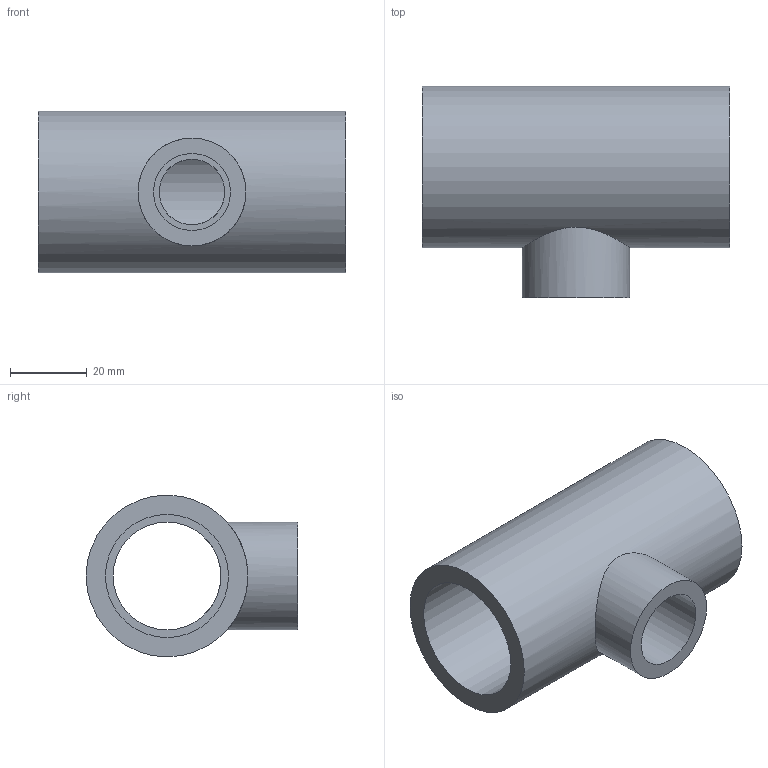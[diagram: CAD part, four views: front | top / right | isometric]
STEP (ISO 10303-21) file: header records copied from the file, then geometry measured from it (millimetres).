
FILE_DESCRIPTION(/* description */ ('PVC ti a 90° ridotto incollaggio metrico'),/* implementation_level */ '2;1');
FILE_NAME(/* name */ 'C:\Users\POLYPIPE\Desktop\DATASET INVENTOR\LIBRERIA EFFAST\RACCORDI 3DxWEB\RDR\3D_RDRTRD\3D_RDRTRD032B.stp',/* time_stamp */ '2018-01-19T15:45:37+01:00',/* author */ ('POLYPIPE'),/* organization */ ('Polypipe Italia s.r.l.'),/* preprocessor_version */ 'ST-DEVELOPER v16.1',/* originating_system */ 'Autodesk Inventor 2016',/* authorisation */ '');
FILE_SCHEMA (('CONFIG_CONTROL_DESIGN'));
Length unit declared in the file: millimetre
Products named in the file (1): 3D_RDRTRD
Bounding box: 80 x 55 x 42 mm (x, y, z)
Volume: 55592.1 mm3; surface area: 21867.4 mm2
Topology: 1 solids, 1 shells, 13 faces, 23 edges, 16 vertices
Faces by surface type: cylinder 7, plane 6
Full cylindrical faces by diameter (mm): 17 x1, 20 x1, 28 x2, 32 x2, 42 x1
Entity records: 382 total; most frequent: CARTESIAN_POINT 124, DIRECTION 52, EDGE_LOOP 28, ORIENTED_EDGE 28, AXIS2_PLACEMENT_3D 26, FACE_BOUND 15, VERTEX_POINT 14, EDGE_CURVE 14
